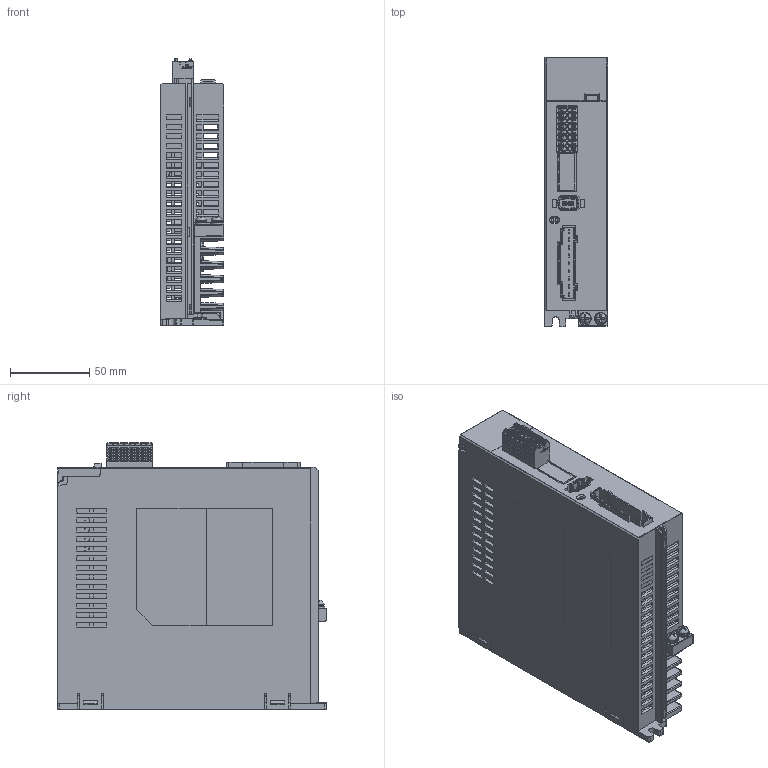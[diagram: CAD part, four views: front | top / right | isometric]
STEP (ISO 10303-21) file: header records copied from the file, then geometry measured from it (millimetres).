
FILE_DESCRIPTION((''),'2;1');
FILE_NAME('AS3-04BAI_ASM_SW0001','2025-08-21T10:33:35',('Admin'),(''),'CREO PARAMETRIC BY PTC INC, 2020074','CREO PARAMETRIC BY PTC INC, 2020074','');
FILE_SCHEMA(('CONFIG_CONTROL_DESIGN'));
Products named in the file (1): AS3-04BAI_ASM_SW0001
Bounding box: 40.2 x 170 x 168.5 mm (x, y, z)
Volume: 320109.9 mm3; surface area: 253119.4 mm2
Topology: 2 solids, 2 shells, 4553 faces, 12449 edges, 7931 vertices
Faces by surface type: plane 2878, cylinder 994, bspline 326, cone 146, extrusion 74, sphere 74, torus 61
Entity records: 156112 total; most frequent: CARTESIAN_POINT 43282, ORIENTED_EDGE 24748, DIRECTION 21307, EDGE_CURVE 12374, VECTOR 8927, LINE 8853, VERTEX_POINT 7931, AXIS2_PLACEMENT_3D 6190
